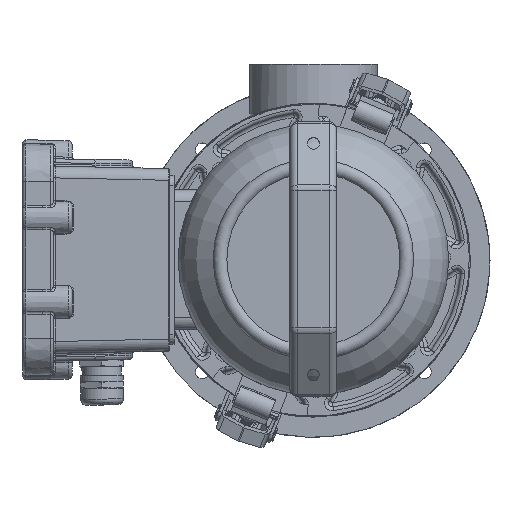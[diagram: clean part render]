
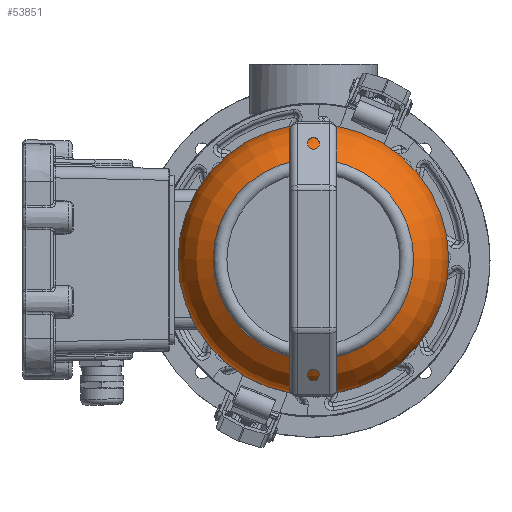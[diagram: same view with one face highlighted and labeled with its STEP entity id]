
A CAD part, top view. The second image highlights one B-rep face of the part: STEP entity #53851.
In plain terms, the highlighted toroidal (fillet/blend) face has major radius 37.319 mm and minor radius 32 mm.
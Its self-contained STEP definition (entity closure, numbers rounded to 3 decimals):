
#1495=TOROIDAL_SURFACE('',#56953,37.319,32.);
#10566=ORIENTED_EDGE('',*,*,#20926,.T.);
#10567=ORIENTED_EDGE('',*,*,#20927,.F.);
#20926=EDGE_CURVE('',#26172,#26172,#29617,.T.);
#20927=EDGE_CURVE('',#26173,#26173,#29618,.T.);
#26172=VERTEX_POINT('',#75736);
#26173=VERTEX_POINT('',#75738);
#29617=CIRCLE('',#56954,51.08);
#29618=CIRCLE('',#56955,68.997);
#31539=EDGE_LOOP('',(#10566));
#31540=EDGE_LOOP('',(#10567));
#34347=FACE_BOUND('',#31539,.T.);
#34348=FACE_BOUND('',#31540,.T.);
#53851=ADVANCED_FACE('',(#34347,#34348),#1495,.T.);
#56953=AXIS2_PLACEMENT_3D('',#75734,#63378,#63379);
#56954=AXIS2_PLACEMENT_3D('',#75735,#63380,#63381);
#56955=AXIS2_PLACEMENT_3D('',#75737,#63382,#63383);
#63378=DIRECTION('',(0.,0.,-1.));
#63379=DIRECTION('',(0.,-1.,0.));
#63380=DIRECTION('',(0.,0.,-1.));
#63381=DIRECTION('',(0.,-1.,0.));
#63382=DIRECTION('',(0.,0.,-1.));
#63383=DIRECTION('',(0.,-1.,0.));
#75734=CARTESIAN_POINT('',(0.,0.,580.745));
#75735=CARTESIAN_POINT('',(0.,0.,609.635));
#75736=CARTESIAN_POINT('',(0.,-51.08,609.635));
#75737=CARTESIAN_POINT('',(0.,0.,585.269));
#75738=CARTESIAN_POINT('',(0.,-68.997,585.269));
